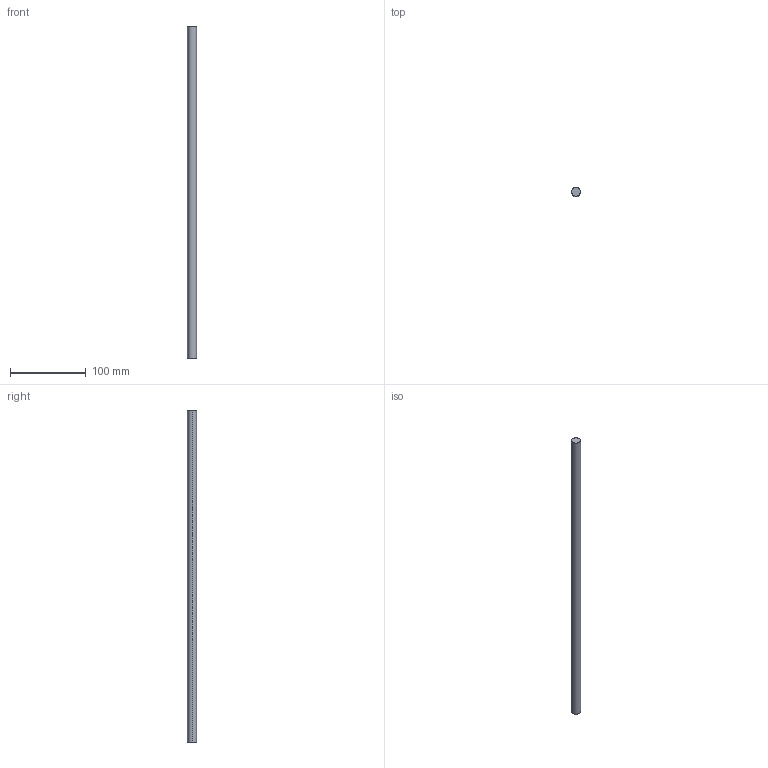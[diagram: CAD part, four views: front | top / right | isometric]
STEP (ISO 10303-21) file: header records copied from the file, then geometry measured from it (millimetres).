
FILE_DESCRIPTION (( 'STEP AP214' ), '1' );
FILE_NAME ('Innenschub H182 - S16_S17 - 550.step', '2010-09-07T14:55:58', ( 'grass' ), ( '' ), 'SwSTEP 2.0', 'SolidWorks 2010', '' );
FILE_SCHEMA (( 'AUTOMOTIVE_DESIGN' ));
Length unit declared in the file: millimetre
Products named in the file (1): Innenschub H182 - S16_S17 - 550
Bounding box: 12 x 12 x 437 mm (x, y, z)
Volume: 49423.5 mm3; surface area: 16700.7 mm2
Topology: 1 solids, 1 shells, 4 faces, 6 edges, 4 vertices
Faces by surface type: cylinder 2, plane 2
Entity records: 128 total; most frequent: DIRECTION 20, CARTESIAN_POINT 15, ORIENTED_EDGE 12, AXIS2_PLACEMENT_3D 9, EDGE_CURVE 6, ADVANCED_FACE 4, VERTEX_POINT 4, FACE_OUTER_BOUND 4
